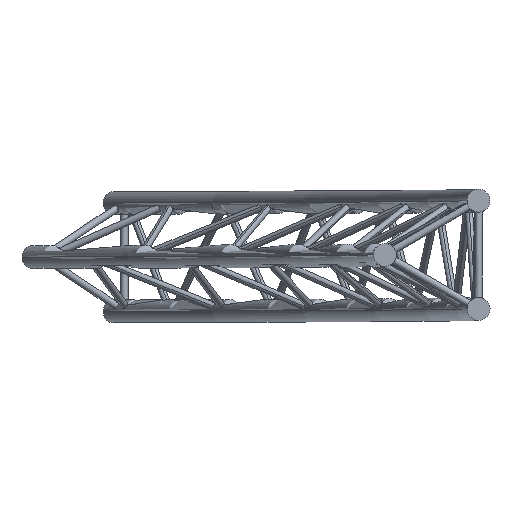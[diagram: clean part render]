
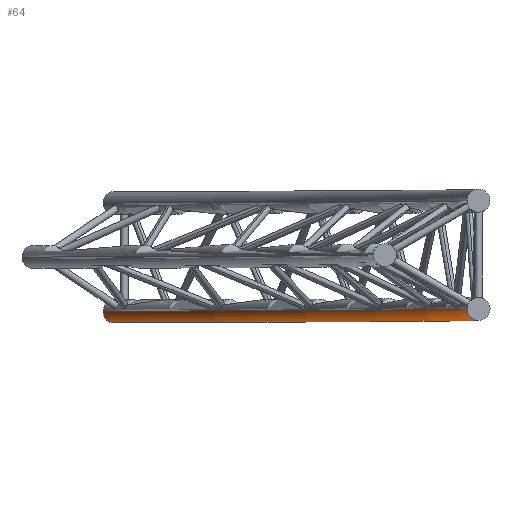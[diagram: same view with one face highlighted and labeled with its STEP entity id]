
A CAD part, top view. The second image highlights one B-rep face of the part: STEP entity #64.
In plain terms, the highlighted toroidal (fillet/blend) face has major radius 5975 mm and minor radius 25 mm.
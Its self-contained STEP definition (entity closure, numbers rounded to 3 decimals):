
#64 = ADVANCED_FACE ( 'NONE', ( #10050 ), #10048, .T. ) ;
#1914 = CIRCLE ( 'NONE', #1955, 5950. ) ;
#1953 = DIRECTION ( 'NONE',  ( 0., -1., 0. ) ) ;
#1954 = CARTESIAN_POINT ( 'NONE',  ( 0., -118.5, 0. ) ) ;
#1955 = AXIS2_PLACEMENT_3D ( 'NONE', #1954, #1953, #2039 ) ;
#2039 = DIRECTION ( 'NONE',  ( 0., 0., -1. ) ) ;
#4347 = CIRCLE ( 'NONE', #4370, 25. ) ;
#4352 = DIRECTION ( 'NONE',  ( 0.866, 0., -0.5 ) ) ;
#4353 = DIRECTION ( 'NONE',  ( 0.5, 0., 0.866 ) ) ;
#4354 = CARTESIAN_POINT ( 'NONE',  ( 5174.502, -118.5, -2987.5 ) ) ;
#4355 = AXIS2_PLACEMENT_3D ( 'NONE', #4354, #4353, #4352 ) ;
#4356 = CIRCLE ( 'NONE', #4355, 25. ) ;
#4357 = CARTESIAN_POINT ( 'NONE',  ( 5196.152, -118.5, -3000. ) ) ;
#4358 = CARTESIAN_POINT ( 'NONE',  ( 5152.851, -118.5, -2975. ) ) ;
#4359 = CARTESIAN_POINT ( 'NONE',  ( 5950., -118.5, 0. ) ) ;
#4361 = CARTESIAN_POINT ( 'NONE',  ( 6000., -118.5, 0. ) ) ;
#4362 = DIRECTION ( 'NONE',  ( 0., 0., -1. ) ) ;
#4363 = DIRECTION ( 'NONE',  ( 0., -1., 0. ) ) ;
#4364 = CARTESIAN_POINT ( 'NONE',  ( 0., -118.5, 0. ) ) ;
#4365 = AXIS2_PLACEMENT_3D ( 'NONE', #4364, #4363, #4362 ) ;
#4366 = CIRCLE ( 'NONE', #4365, 6000. ) ;
#4367 = DIRECTION ( 'NONE',  ( 1., 0., 0. ) ) ;
#4368 = DIRECTION ( 'NONE',  ( 0., 0., 1. ) ) ;
#4369 = CARTESIAN_POINT ( 'NONE',  ( 5975., -118.5, 0. ) ) ;
#4370 = AXIS2_PLACEMENT_3D ( 'NONE', #4369, #4368, #4367 ) ;
#8718 = EDGE_CURVE ( 'NONE', #9125, #9124, #1914, .T. ) ;
#9118 = EDGE_CURVE ( 'NONE', #9124, #9122, #4347, .T. ) ;
#9119 = ORIENTED_EDGE ( 'NONE', *, *, #9118, .F. ) ;
#9120 = ORIENTED_EDGE ( 'NONE', *, *, #9121, .T. ) ;
#9121 = EDGE_CURVE ( 'NONE', #9126, #9122, #4366, .T. ) ;
#9122 = VERTEX_POINT ( 'NONE', #4361 ) ;
#9124 = VERTEX_POINT ( 'NONE', #4359 ) ;
#9125 = VERTEX_POINT ( 'NONE', #4358 ) ;
#9126 = VERTEX_POINT ( 'NONE', #4357 ) ;
#9127 = EDGE_CURVE ( 'NONE', #9125, #9126, #4356, .T. ) ;
#9129 = EDGE_LOOP ( 'NONE', ( #9130, #9120, #9119, #10459 ) ) ;
#9130 = ORIENTED_EDGE ( 'NONE', *, *, #9127, .T. ) ;
#10047 = AXIS2_PLACEMENT_3D ( 'NONE', #10075, #10074, #10073 ) ;
#10048 = TOROIDAL_SURFACE ( 'NONE', #10047, 5975., 25. ) ;
#10050 = FACE_OUTER_BOUND ( 'NONE', #9129, .T. ) ;
#10073 = DIRECTION ( 'NONE',  ( 0., 0., -1. ) ) ;
#10074 = DIRECTION ( 'NONE',  ( 0., -1., 0. ) ) ;
#10075 = CARTESIAN_POINT ( 'NONE',  ( 0., -118.5, 0. ) ) ;
#10459 = ORIENTED_EDGE ( 'NONE', *, *, #8718, .F. ) ;
